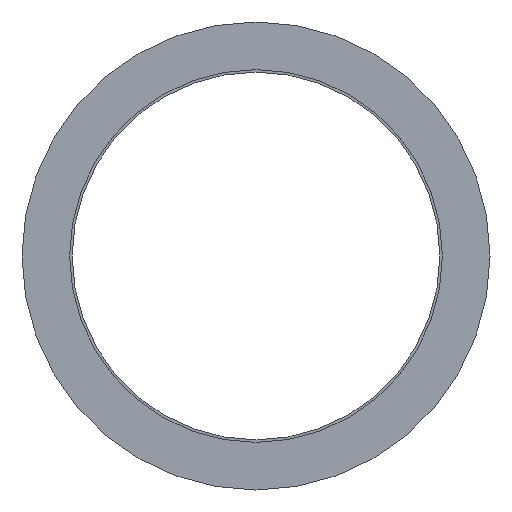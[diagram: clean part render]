
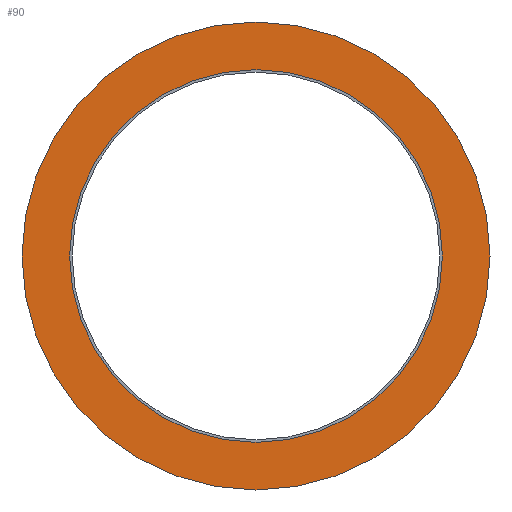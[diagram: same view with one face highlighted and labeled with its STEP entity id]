
A CAD part, left-side view. The second image highlights one B-rep face of the part: STEP entity #90.
In plain terms, the highlighted planar face has unit normal (-1, 0, 0).
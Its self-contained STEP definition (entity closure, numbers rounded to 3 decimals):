
#4 = AXIS2_PLACEMENT_3D ( 'NONE', #55, #307, #28 ) ;
#13 = VERTEX_POINT ( 'NONE', #343 ) ;
#15 = AXIS2_PLACEMENT_3D ( 'NONE', #115, #217, #176 ) ;
#21 = FACE_BOUND ( 'NONE', #105, .T. ) ;
#28 = DIRECTION ( 'NONE',  ( 0., 0., 1. ) ) ;
#29 = DIRECTION ( 'NONE',  ( 0., 0., 1. ) ) ;
#42 = ORIENTED_EDGE ( 'NONE', *, *, #184, .T. ) ;
#55 = CARTESIAN_POINT ( 'NONE',  ( -2.267, 0., 0. ) ) ;
#73 = FACE_OUTER_BOUND ( 'NONE', #381, .T. ) ;
#79 = DIRECTION ( 'NONE',  ( -1., 0., 0. ) ) ;
#90 = ADVANCED_FACE ( 'NONE', ( #73, #21 ), #214, .T. ) ;
#103 = DIRECTION ( 'NONE',  ( 0., 0., 1. ) ) ;
#105 = EDGE_LOOP ( 'NONE', ( #144, #399 ) ) ;
#110 = CIRCLE ( 'NONE', #362, 5.575 ) ;
#115 = CARTESIAN_POINT ( 'NONE',  ( -2.267, 0., 0. ) ) ;
#123 = CIRCLE ( 'NONE', #15, 7. ) ;
#126 = CARTESIAN_POINT ( 'NONE',  ( -2.267, 0., 7. ) ) ;
#144 = ORIENTED_EDGE ( 'NONE', *, *, #182, .F. ) ;
#146 = DIRECTION ( 'NONE',  ( -1., 0., 0. ) ) ;
#150 = AXIS2_PLACEMENT_3D ( 'NONE', #267, #79, #103 ) ;
#167 = VERTEX_POINT ( 'NONE', #313 ) ;
#176 = DIRECTION ( 'NONE',  ( 0., 0., 1. ) ) ;
#180 = DIRECTION ( 'NONE',  ( 0., 0., 1. ) ) ;
#182 = EDGE_CURVE ( 'NONE', #167, #13, #110, .T. ) ;
#184 = EDGE_CURVE ( 'NONE', #341, #279, #354, .T. ) ;
#195 = EDGE_CURVE ( 'NONE', #279, #341, #123, .T. ) ;
#214 = PLANE ( 'NONE',  #4 ) ;
#217 = DIRECTION ( 'NONE',  ( -1., 0., 0. ) ) ;
#231 = CIRCLE ( 'NONE', #150, 5.575 ) ;
#267 = CARTESIAN_POINT ( 'NONE',  ( -2.267, 0., 0. ) ) ;
#279 = VERTEX_POINT ( 'NONE', #360 ) ;
#286 = CARTESIAN_POINT ( 'NONE',  ( -2.267, 0., 0. ) ) ;
#290 = DIRECTION ( 'NONE',  ( -1., 0., 0. ) ) ;
#307 = DIRECTION ( 'NONE',  ( -1., 0., 0. ) ) ;
#313 = CARTESIAN_POINT ( 'NONE',  ( -2.267, 0., -5.575 ) ) ;
#341 = VERTEX_POINT ( 'NONE', #126 ) ;
#343 = CARTESIAN_POINT ( 'NONE',  ( -2.267, 0., 5.575 ) ) ;
#353 = CARTESIAN_POINT ( 'NONE',  ( -2.267, 0., 0. ) ) ;
#354 = CIRCLE ( 'NONE', #368, 7. ) ;
#357 = EDGE_CURVE ( 'NONE', #13, #167, #231, .T. ) ;
#360 = CARTESIAN_POINT ( 'NONE',  ( -2.267, 0., -7. ) ) ;
#362 = AXIS2_PLACEMENT_3D ( 'NONE', #353, #146, #180 ) ;
#368 = AXIS2_PLACEMENT_3D ( 'NONE', #286, #290, #29 ) ;
#381 = EDGE_LOOP ( 'NONE', ( #42, #383 ) ) ;
#383 = ORIENTED_EDGE ( 'NONE', *, *, #195, .T. ) ;
#399 = ORIENTED_EDGE ( 'NONE', *, *, #357, .F. ) ;
